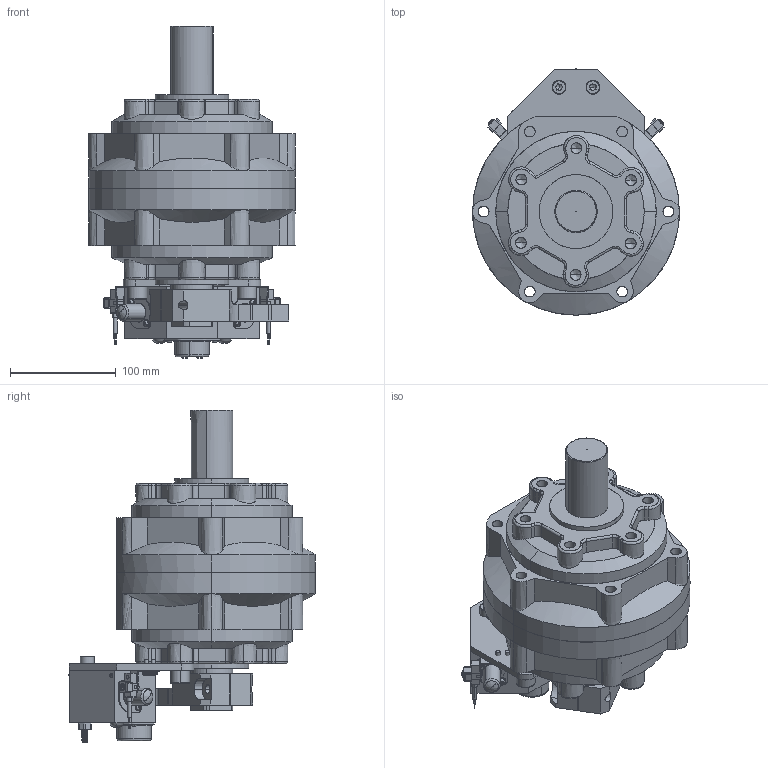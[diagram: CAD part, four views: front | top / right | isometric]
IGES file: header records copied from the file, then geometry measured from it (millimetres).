
Start section: SolidWorks IGES file using analytic representation for surfaces
Global section: file name: C:\Users\Chieh_Lu\Dropbox\¤u§@«Ç\PRN50-150-300-800\PRN800\PRN800\PRN800#-#-#-#-FC.IGS; native system: SolidWorks 2014; preprocessor: SolidWorks 2014; author: Chieh_Lu; date: 160115.005103; units: millimetre
Bounding box: 196 x 233.5 x 314.5 mm (x, y, z)
Surface area: 410111.4 mm2 (no closed solid volume)
Topology: 0 solids, 0 shells, 1482 faces, 18598 edges, 18532 vertices
Faces by surface type: bspline 821, revolution 661
